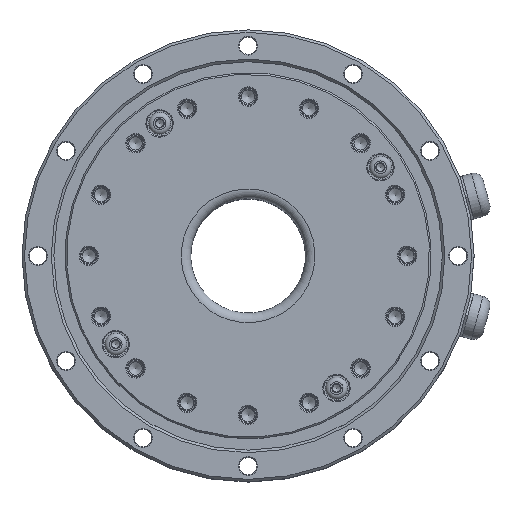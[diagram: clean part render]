
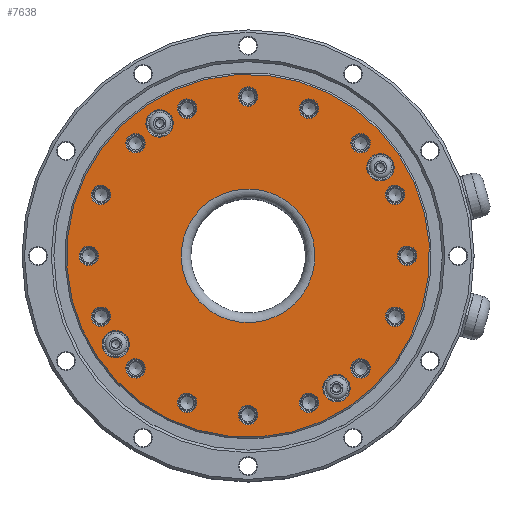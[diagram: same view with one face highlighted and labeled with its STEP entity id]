
A CAD part, top view. The second image highlights one B-rep face of the part: STEP entity #7638.
In plain terms, the highlighted planar face has unit normal (0, 0, 1).
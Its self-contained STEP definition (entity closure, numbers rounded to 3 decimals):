
#7638=ADVANCED_FACE('',(#10754,#10755,#10756,#10757,#10758,#10759,#10760,
#10761,#10762,#10763,#10764,#10765,#10766,#10767,#10768,#10769,#10770,#10771,
#10772,#10773,#10774,#10775),#8422,.T.);
#8422=PLANE('',#32302);
#10754=FACE_BOUND('',#14065,.T.);
#10755=FACE_BOUND('',#14066,.T.);
#10756=FACE_BOUND('',#14067,.T.);
#10757=FACE_BOUND('',#14068,.T.);
#10758=FACE_BOUND('',#14069,.T.);
#10759=FACE_BOUND('',#14070,.T.);
#10760=FACE_BOUND('',#14071,.T.);
#10761=FACE_BOUND('',#14072,.T.);
#10762=FACE_BOUND('',#14073,.T.);
#10763=FACE_BOUND('',#14074,.T.);
#10764=FACE_BOUND('',#14075,.T.);
#10765=FACE_BOUND('',#14076,.T.);
#10766=FACE_BOUND('',#14077,.T.);
#10767=FACE_BOUND('',#14078,.T.);
#10768=FACE_BOUND('',#14079,.T.);
#10769=FACE_BOUND('',#14080,.T.);
#10770=FACE_BOUND('',#14081,.T.);
#10771=FACE_BOUND('',#14082,.T.);
#10772=FACE_BOUND('',#14083,.T.);
#10773=FACE_BOUND('',#14084,.T.);
#10774=FACE_BOUND('',#14085,.T.);
#10775=FACE_BOUND('',#14086,.T.);
#14065=EDGE_LOOP('',(#20441));
#14066=EDGE_LOOP('',(#20442));
#14067=EDGE_LOOP('',(#20443));
#14068=EDGE_LOOP('',(#20444));
#14069=EDGE_LOOP('',(#20445));
#14070=EDGE_LOOP('',(#20446));
#14071=EDGE_LOOP('',(#20447));
#14072=EDGE_LOOP('',(#20448));
#14073=EDGE_LOOP('',(#20449));
#14074=EDGE_LOOP('',(#20450));
#14075=EDGE_LOOP('',(#20451));
#14076=EDGE_LOOP('',(#20452));
#14077=EDGE_LOOP('',(#20453));
#14078=EDGE_LOOP('',(#20454));
#14079=EDGE_LOOP('',(#20455));
#14080=EDGE_LOOP('',(#20456));
#14081=EDGE_LOOP('',(#20457));
#14082=EDGE_LOOP('',(#20458));
#14083=EDGE_LOOP('',(#20459));
#14084=EDGE_LOOP('',(#20460));
#14085=EDGE_LOOP('',(#20461));
#14086=EDGE_LOOP('',(#20462));
#20441=ORIENTED_EDGE('',*,*,#26357,.T.);
#20442=ORIENTED_EDGE('',*,*,#26358,.T.);
#20443=ORIENTED_EDGE('',*,*,#26359,.T.);
#20444=ORIENTED_EDGE('',*,*,#26360,.T.);
#20445=ORIENTED_EDGE('',*,*,#26361,.T.);
#20446=ORIENTED_EDGE('',*,*,#26362,.T.);
#20447=ORIENTED_EDGE('',*,*,#26363,.T.);
#20448=ORIENTED_EDGE('',*,*,#26364,.T.);
#20449=ORIENTED_EDGE('',*,*,#26365,.T.);
#20450=ORIENTED_EDGE('',*,*,#26366,.T.);
#20451=ORIENTED_EDGE('',*,*,#26367,.T.);
#20452=ORIENTED_EDGE('',*,*,#26368,.T.);
#20453=ORIENTED_EDGE('',*,*,#26369,.T.);
#20454=ORIENTED_EDGE('',*,*,#26370,.T.);
#20455=ORIENTED_EDGE('',*,*,#26371,.T.);
#20456=ORIENTED_EDGE('',*,*,#26372,.T.);
#20457=ORIENTED_EDGE('',*,*,#26373,.T.);
#20458=ORIENTED_EDGE('',*,*,#26374,.T.);
#20459=ORIENTED_EDGE('',*,*,#26375,.T.);
#20460=ORIENTED_EDGE('',*,*,#26376,.T.);
#20461=ORIENTED_EDGE('',*,*,#26377,.T.);
#20462=ORIENTED_EDGE('',*,*,#26378,.T.);
#23142=VERTEX_POINT('',#50414);
#23143=VERTEX_POINT('',#50416);
#23144=VERTEX_POINT('',#50418);
#23145=VERTEX_POINT('',#50420);
#23146=VERTEX_POINT('',#50422);
#23147=VERTEX_POINT('',#50424);
#23148=VERTEX_POINT('',#50426);
#23149=VERTEX_POINT('',#50428);
#23150=VERTEX_POINT('',#50430);
#23151=VERTEX_POINT('',#50432);
#23152=VERTEX_POINT('',#50434);
#23153=VERTEX_POINT('',#50436);
#23154=VERTEX_POINT('',#50438);
#23155=VERTEX_POINT('',#50440);
#23156=VERTEX_POINT('',#50442);
#23157=VERTEX_POINT('',#50444);
#23158=VERTEX_POINT('',#50446);
#23159=VERTEX_POINT('',#50448);
#23160=VERTEX_POINT('',#50450);
#23161=VERTEX_POINT('',#50452);
#23162=VERTEX_POINT('',#50454);
#23163=VERTEX_POINT('',#50456);
#26357=EDGE_CURVE('',#23142,#23142,#28419,.T.);
#26358=EDGE_CURVE('',#23143,#23143,#28420,.T.);
#26359=EDGE_CURVE('',#23144,#23144,#28421,.T.);
#26360=EDGE_CURVE('',#23145,#23145,#28422,.T.);
#26361=EDGE_CURVE('',#23146,#23146,#28423,.T.);
#26362=EDGE_CURVE('',#23147,#23147,#28424,.T.);
#26363=EDGE_CURVE('',#23148,#23148,#28425,.T.);
#26364=EDGE_CURVE('',#23149,#23149,#28426,.T.);
#26365=EDGE_CURVE('',#23150,#23150,#28427,.T.);
#26366=EDGE_CURVE('',#23151,#23151,#28428,.T.);
#26367=EDGE_CURVE('',#23152,#23152,#28429,.T.);
#26368=EDGE_CURVE('',#23153,#23153,#28430,.T.);
#26369=EDGE_CURVE('',#23154,#23154,#28431,.T.);
#26370=EDGE_CURVE('',#23155,#23155,#28432,.T.);
#26371=EDGE_CURVE('',#23156,#23156,#28433,.T.);
#26372=EDGE_CURVE('',#23157,#23157,#28434,.T.);
#26373=EDGE_CURVE('',#23158,#23158,#28435,.T.);
#26374=EDGE_CURVE('',#23159,#23159,#28436,.T.);
#26375=EDGE_CURVE('',#23160,#23160,#28437,.T.);
#26376=EDGE_CURVE('',#23161,#23161,#28438,.T.);
#26377=EDGE_CURVE('',#23162,#23162,#28439,.T.);
#26378=EDGE_CURVE('',#23163,#23163,#28440,.T.);
#28419=CIRCLE('',#32280,4.3);
#28420=CIRCLE('',#32281,4.3);
#28421=CIRCLE('',#32282,4.3);
#28422=CIRCLE('',#32283,4.3);
#28423=CIRCLE('',#32284,3.05);
#28424=CIRCLE('',#32285,3.05);
#28425=CIRCLE('',#32286,3.05);
#28426=CIRCLE('',#32287,3.05);
#28427=CIRCLE('',#32288,3.05);
#28428=CIRCLE('',#32289,3.05);
#28429=CIRCLE('',#32290,3.05);
#28430=CIRCLE('',#32291,3.05);
#28431=CIRCLE('',#32292,3.05);
#28432=CIRCLE('',#32293,3.05);
#28433=CIRCLE('',#32294,3.05);
#28434=CIRCLE('',#32295,3.05);
#28435=CIRCLE('',#32296,3.05);
#28436=CIRCLE('',#32297,3.05);
#28437=CIRCLE('',#32298,3.05);
#28438=CIRCLE('',#32299,3.05);
#28439=CIRCLE('',#32300,57.);
#28440=CIRCLE('',#32301,21.);
#32280=AXIS2_PLACEMENT_3D('',#50413,#41042,#41043);
#32281=AXIS2_PLACEMENT_3D('',#50415,#41044,#41045);
#32282=AXIS2_PLACEMENT_3D('',#50417,#41046,#41047);
#32283=AXIS2_PLACEMENT_3D('',#50419,#41048,#41049);
#32284=AXIS2_PLACEMENT_3D('',#50421,#41050,#41051);
#32285=AXIS2_PLACEMENT_3D('',#50423,#41052,#41053);
#32286=AXIS2_PLACEMENT_3D('',#50425,#41054,#41055);
#32287=AXIS2_PLACEMENT_3D('',#50427,#41056,#41057);
#32288=AXIS2_PLACEMENT_3D('',#50429,#41058,#41059);
#32289=AXIS2_PLACEMENT_3D('',#50431,#41060,#41061);
#32290=AXIS2_PLACEMENT_3D('',#50433,#41062,#41063);
#32291=AXIS2_PLACEMENT_3D('',#50435,#41064,#41065);
#32292=AXIS2_PLACEMENT_3D('',#50437,#41066,#41067);
#32293=AXIS2_PLACEMENT_3D('',#50439,#41068,#41069);
#32294=AXIS2_PLACEMENT_3D('',#50441,#41070,#41071);
#32295=AXIS2_PLACEMENT_3D('',#50443,#41072,#41073);
#32296=AXIS2_PLACEMENT_3D('',#50445,#41074,#41075);
#32297=AXIS2_PLACEMENT_3D('',#50447,#41076,#41077);
#32298=AXIS2_PLACEMENT_3D('',#50449,#41078,#41079);
#32299=AXIS2_PLACEMENT_3D('',#50451,#41080,#41081);
#32300=AXIS2_PLACEMENT_3D('',#50453,#41082,#41083);
#32301=AXIS2_PLACEMENT_3D('',#50455,#41084,#41085);
#32302=AXIS2_PLACEMENT_3D('',#50457,#41086,#41087);
#41042=DIRECTION('',(0.,0.,-1.));
#41043=DIRECTION('',(0.831,0.556,0.));
#41044=DIRECTION('',(0.,0.,-1.));
#41045=DIRECTION('',(0.831,0.556,0.));
#41046=DIRECTION('',(0.,0.,-1.));
#41047=DIRECTION('',(0.831,0.556,0.));
#41048=DIRECTION('',(0.,0.,-1.));
#41049=DIRECTION('',(0.831,0.556,0.));
#41050=DIRECTION('',(0.,0.,-1.));
#41051=DIRECTION('',(0.831,0.556,0.));
#41052=DIRECTION('',(0.,0.,-1.));
#41053=DIRECTION('',(0.831,0.556,0.));
#41054=DIRECTION('',(0.,0.,-1.));
#41055=DIRECTION('',(0.831,0.556,0.));
#41056=DIRECTION('',(0.,0.,-1.));
#41057=DIRECTION('',(0.831,0.556,0.));
#41058=DIRECTION('',(0.,0.,-1.));
#41059=DIRECTION('',(0.831,0.556,0.));
#41060=DIRECTION('',(0.,0.,-1.));
#41061=DIRECTION('',(0.831,0.556,0.));
#41062=DIRECTION('',(0.,0.,-1.));
#41063=DIRECTION('',(0.831,0.556,0.));
#41064=DIRECTION('',(0.,0.,-1.));
#41065=DIRECTION('',(0.831,0.556,0.));
#41066=DIRECTION('',(0.,0.,-1.));
#41067=DIRECTION('',(0.831,0.556,0.));
#41068=DIRECTION('',(0.,0.,-1.));
#41069=DIRECTION('',(0.831,0.556,0.));
#41070=DIRECTION('',(0.,0.,-1.));
#41071=DIRECTION('',(0.831,0.556,0.));
#41072=DIRECTION('',(0.,0.,-1.));
#41073=DIRECTION('',(0.831,0.556,0.));
#41074=DIRECTION('',(0.,0.,-1.));
#41075=DIRECTION('',(0.831,0.556,0.));
#41076=DIRECTION('',(0.,0.,-1.));
#41077=DIRECTION('',(0.831,0.556,0.));
#41078=DIRECTION('',(0.,0.,-1.));
#41079=DIRECTION('',(0.831,0.556,0.));
#41080=DIRECTION('',(0.,0.,-1.));
#41081=DIRECTION('',(0.831,0.556,0.));
#41082=DIRECTION('',(0.,0.,1.));
#41083=DIRECTION('',(0.831,0.556,0.));
#41084=DIRECTION('',(0.,0.,-1.));
#41085=DIRECTION('',(0.831,0.556,0.));
#41086=DIRECTION('',(0.,0.,1.));
#41087=DIRECTION('',(-0.831,-0.556,0.));
#50413=CARTESIAN_POINT('',(-27.779,41.573,61.));
#50414=CARTESIAN_POINT('',(-24.203,43.962,61.));
#50415=CARTESIAN_POINT('',(-41.573,-27.779,61.));
#50416=CARTESIAN_POINT('',(-37.998,-25.39,61.));
#50417=CARTESIAN_POINT('',(27.779,-41.573,61.));
#50418=CARTESIAN_POINT('',(31.354,-39.185,61.));
#50419=CARTESIAN_POINT('',(41.573,27.779,61.));
#50420=CARTESIAN_POINT('',(45.149,30.167,61.));
#50421=CARTESIAN_POINT('',(19.134,46.194,61.));
#50422=CARTESIAN_POINT('',(21.67,47.888,61.));
#50423=CARTESIAN_POINT('',(0.,50.,61.));
#50424=CARTESIAN_POINT('',(2.536,51.694,61.));
#50425=CARTESIAN_POINT('',(-19.134,46.194,61.));
#50426=CARTESIAN_POINT('',(-16.598,47.888,61.));
#50427=CARTESIAN_POINT('',(-35.355,35.355,61.));
#50428=CARTESIAN_POINT('',(-32.819,37.05,61.));
#50429=CARTESIAN_POINT('',(-46.194,19.134,61.));
#50430=CARTESIAN_POINT('',(-43.658,20.829,61.));
#50431=CARTESIAN_POINT('',(-50.,0.,61.));
#50432=CARTESIAN_POINT('',(-47.464,1.694,61.));
#50433=CARTESIAN_POINT('',(-46.194,-19.134,61.));
#50434=CARTESIAN_POINT('',(-43.658,-17.44,61.));
#50435=CARTESIAN_POINT('',(-35.355,-35.355,61.));
#50436=CARTESIAN_POINT('',(-32.819,-33.661,61.));
#50437=CARTESIAN_POINT('',(-19.134,-46.194,61.));
#50438=CARTESIAN_POINT('',(-16.598,-44.499,61.));
#50439=CARTESIAN_POINT('',(0.,-50.,61.));
#50440=CARTESIAN_POINT('',(2.536,-48.306,61.));
#50441=CARTESIAN_POINT('',(19.134,-46.194,61.));
#50442=CARTESIAN_POINT('',(21.67,-44.499,61.));
#50443=CARTESIAN_POINT('',(35.355,-35.355,61.));
#50444=CARTESIAN_POINT('',(37.891,-33.661,61.));
#50445=CARTESIAN_POINT('',(46.194,-19.134,61.));
#50446=CARTESIAN_POINT('',(48.73,-17.44,61.));
#50447=CARTESIAN_POINT('',(50.,0.,61.));
#50448=CARTESIAN_POINT('',(52.536,1.694,61.));
#50449=CARTESIAN_POINT('',(46.194,19.134,61.));
#50450=CARTESIAN_POINT('',(48.73,20.829,61.));
#50451=CARTESIAN_POINT('',(35.355,35.355,61.));
#50452=CARTESIAN_POINT('',(37.891,37.05,61.));
#50453=CARTESIAN_POINT('',(0.,0.,61.));
#50454=CARTESIAN_POINT('',(47.394,31.668,61.));
#50455=CARTESIAN_POINT('',(0.,0.,61.));
#50456=CARTESIAN_POINT('',(17.461,11.667,61.));
#50457=CARTESIAN_POINT('',(-31.945,47.81,61.));
